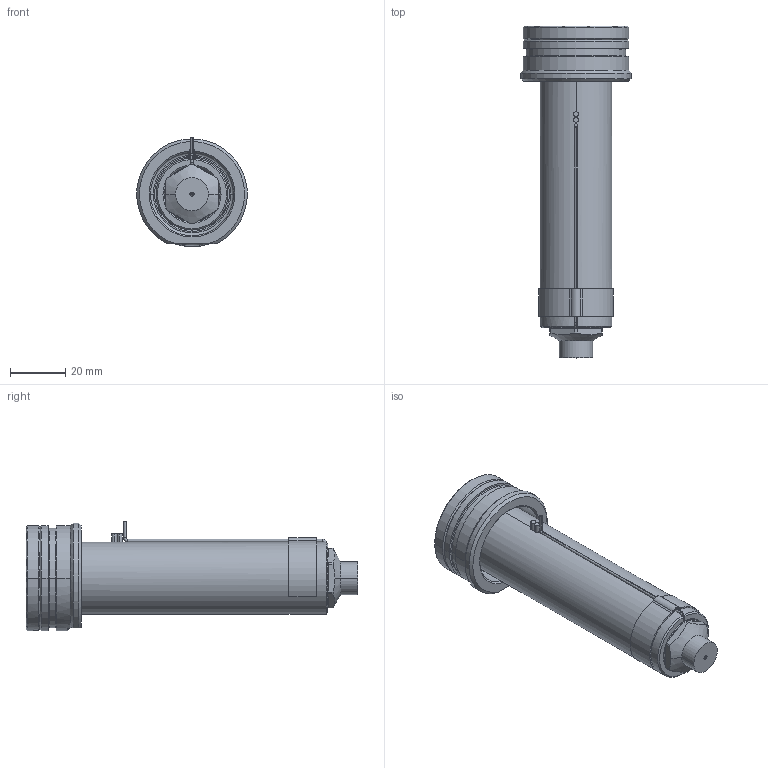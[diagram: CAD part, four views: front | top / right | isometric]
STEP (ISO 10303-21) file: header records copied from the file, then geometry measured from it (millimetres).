
FILE_DESCRIPTION((''),'2;1');
FILE_NAME('EO08_PG-FB_WR_100_SW','2024-02-19T11:31:19',('sundharh'),(''),'CREO PARAMETRIC BY PTC INC, 2023154','CREO PARAMETRIC BY PTC INC, 2023154','');
FILE_SCHEMA(('CONFIG_CONTROL_DESIGN'));
Length unit declared in the file: millimetre
Products named in the file (1): EO08_PG-FB_WR_100_SW
Bounding box: 39.88 x 120 x 39.52 mm (x, y, z)
Volume: 64172.7 mm3; surface area: 19761.2 mm2
Topology: 1 solids, 1 shells, 208 faces, 554 edges, 342 vertices
Faces by surface type: cylinder 81, plane 58, cone 43, torus 19, bspline 4, sphere 3
Entity records: 8020 total; most frequent: CARTESIAN_POINT 2728, DIRECTION 1166, ORIENTED_EDGE 1096, EDGE_CURVE 548, AXIS2_PLACEMENT_3D 487, VERTEX_POINT 342, CIRCLE 283, EDGE_LOOP 226
